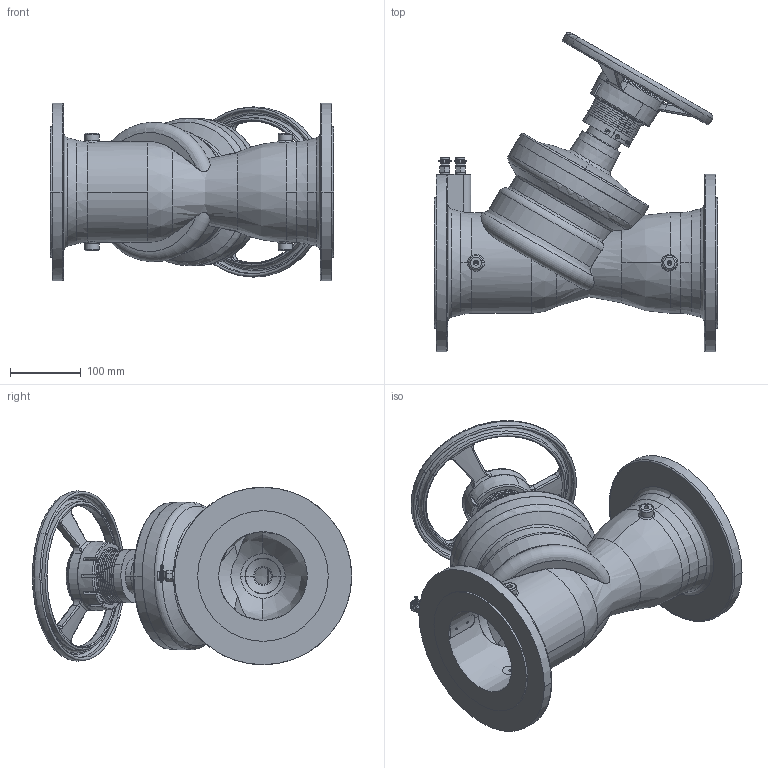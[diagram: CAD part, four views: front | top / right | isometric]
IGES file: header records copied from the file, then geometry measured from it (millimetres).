
Global section: file name: No Iges File Name specified; native system: AutoDesk Inventor R12.0; preprocessor: AutoDesk Inventor Iges Exporter R12.0; date: 20110228.094450; units: millimetre
Bounding box: 400 x 450.07 x 250 mm (x, y, z)
Volume: 6629524.3 mm3; surface area: 701467.4 mm2
Topology: 1 solids, 2 shells, 1024 faces, 2674 edges, 1714 vertices
Faces by surface type: plane 364, bspline 337, cylinder 126, revolution 92, torus 57, cone 48
